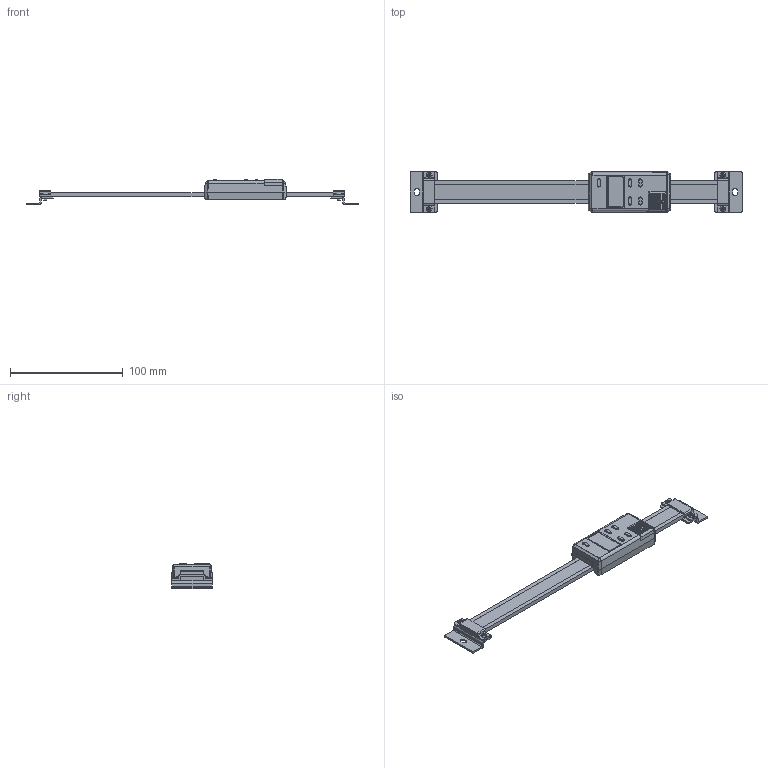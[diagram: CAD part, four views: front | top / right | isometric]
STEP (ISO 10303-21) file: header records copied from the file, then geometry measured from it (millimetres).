
FILE_DESCRIPTION(('Creo Elements/Direct Modeling STEP Export'),'2;1');
FILE_NAME('572-561_SDV-15E.stp','2019-10-15T13:39:41',(''),(''),'Creo Elements/Direct Modeling STEP processor for AP214 (Solid Model)','Creo Elements/Direct Modeling 18.1I 13-Aug-2016 (C) Parametric Technology GmbH','');
FILE_SCHEMA(('AUTOMOTIVE_DESIGN { 1 0 10303 214 1 1 1 1 }'));
Length unit declared in the file: millimetre
Products named in the file (5): Holder.1; Slider; Holder.2; Beam; 572-561_SDV-15E
Assembly tree (4 placements, depth 2):
  572-561_SDV-15E
    Beam
    Holder.2
    Slider
    Holder.1
Bounding box: 294 x 36 x 22.8 mm (x, y, z)
Volume: 59322.7 mm3; surface area: 34968.2 mm2
Topology: 4 solids, 4 shells, 683 faces, 1728 edges, 1080 vertices
Faces by surface type: plane 326, cylinder 176, bspline 111, extrusion 36, cone 26, torus 8
Entity records: 34447 total; most frequent: CARTESIAN_POINT 18263, ORIENTED_EDGE 3456, DIRECTION 2571, EDGE_CURVE 1728, VERTEX_POINT 1080, VECTOR 1035, LINE 1003, AXIS2_PLACEMENT_3D 768
